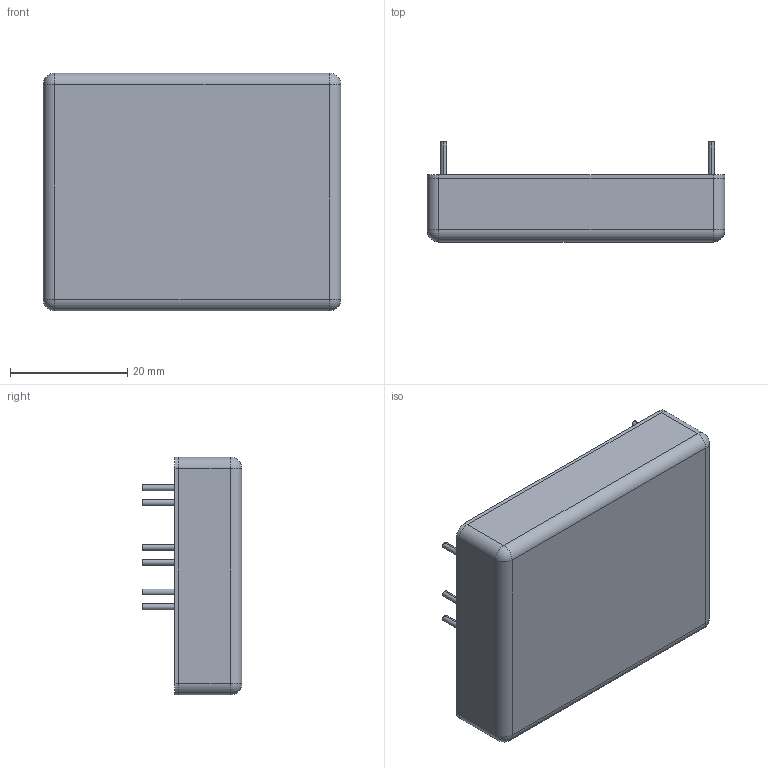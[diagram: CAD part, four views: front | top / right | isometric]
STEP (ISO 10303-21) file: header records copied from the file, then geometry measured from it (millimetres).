
FILE_DESCRIPTION (( 'STEP AP214' ), '1' );
FILE_NAME ('JTA20 single output-1040622-.STEP', '2015-06-23T00:32:51', ( 'fangyi' ), ( 'cc' ), 'SwSTEP 2.0', 'SolidWorks 2008', '' );
FILE_SCHEMA (( 'AUTOMOTIVE_DESIGN' ));
Length unit declared in the file: millimetre
Products named in the file (11): CORE3; 3R9_預設; 電容_預設; 電晶體; JTA20 BASE-1040622_預設; JTA20 CASE-1040622_預設; JTA20 PCB-1040622_預設; JTA20 single output pcb-1040622_預設; JTA20 single output-1040622-; 變壓器_預設; CORE2
Assembly tree (10 placements, depth 3):
  JTA20 single output-1040622-
    JTA20 CASE-1040622_預設
    JTA20 BASE-1040622_預設
    JTA20 single output pcb-1040622_預設
      CORE3
      電晶體
      CORE2
      JTA20 PCB-1040622_預設
      3R9_預設
      變壓器_預設
      電容_預設
Bounding box: 50.8 x 17.03 x 40.6 mm (x, y, z)
Volume: 8616.3 mm3; surface area: 19697.2 mm2
Topology: 11 solids, 12 shells, 2180 faces, 7637 edges, 4943 vertices
Faces by surface type: cylinder 968, torus 584, plane 576, bspline 42, sphere 10
Entity records: 121355 total; most frequent: CARTESIAN_POINT 35689, ORIENTED_EDGE 15210, DIRECTION 14081, EDGE_CURVE 7605, AXIS2_PLACEMENT_3D 5891, VERTEX_POINT 4941, CIRCLE 3739, EDGE_LOOP 2306
